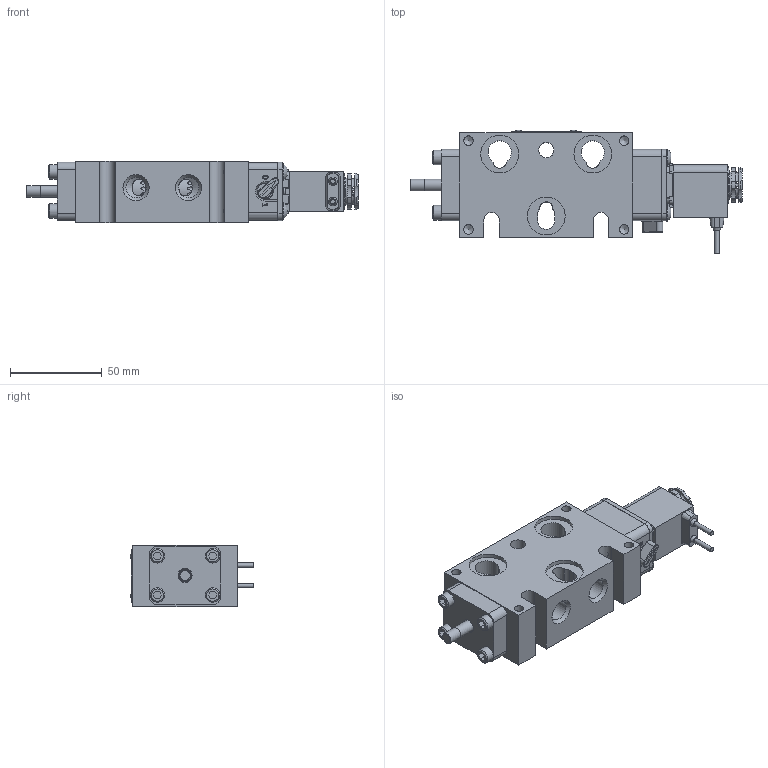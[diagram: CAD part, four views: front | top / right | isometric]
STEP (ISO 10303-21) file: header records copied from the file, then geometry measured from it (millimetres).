
FILE_DESCRIPTION(/* description */ (''),/* implementation_level */ '2;1');
FILE_NAME(/* name */ 'EBSO2MOCKZ.stp',/* time_stamp */ '2026-08-05T08:21:58-04:00',/* author */ ('rmckenna'),/* organization */ (''),/* preprocessor_version */ 'ST-DEVELOPER v20.1',/* originating_system */ 'Autodesk Inventor 2026',/* authorisation */ '');
FILE_SCHEMA (('AUTOMOTIVE_DESIGN { 1 0 10303 214 3 1 1 }'));
Products named in the file (1): Part46
Bounding box: 181.11 x 67.41 x 33.32 mm (x, y, z)
Volume: 185674.1 mm3; surface area: 75534.4 mm2
Topology: 2 solids, 24 shells, 1380 faces, 3339 edges, 2126 vertices
Faces by surface type: plane 585, cylinder 397, cone 229, torus 115, bspline 48, sphere 6
Full cylindrical faces by diameter (mm): 1.168 x10, 1.3 x1, 1.397 x1, 1.5 x1, 2.032 x4, 2.07 x2, 2.261 x2, 2.35 x4, 2.5 x1, 2.54 x2, 2.778 x2, 2.8 x1, 3 x4, 3.048 x2, 3.175 x1, 3.4 x1, 3.683 x9, 4.191 x2, 4.826 x8, 5.105 x4, 5.15 x4, 5.156 x12, 5.5 x1, 6.35 x4, 6.65 x1, 7.29 x1, 7.671 x1, 7.9 x1, 7.938 x4, 8 x2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
Entity records: 50170 total; most frequent: CARTESIAN_POINT 16096, DIRECTION 6886, ORIENTED_EDGE 6648, EDGE_CURVE 3324, AXIS2_PLACEMENT_3D 2646, VERTEX_POINT 2125, LINE 1594, VECTOR 1594
